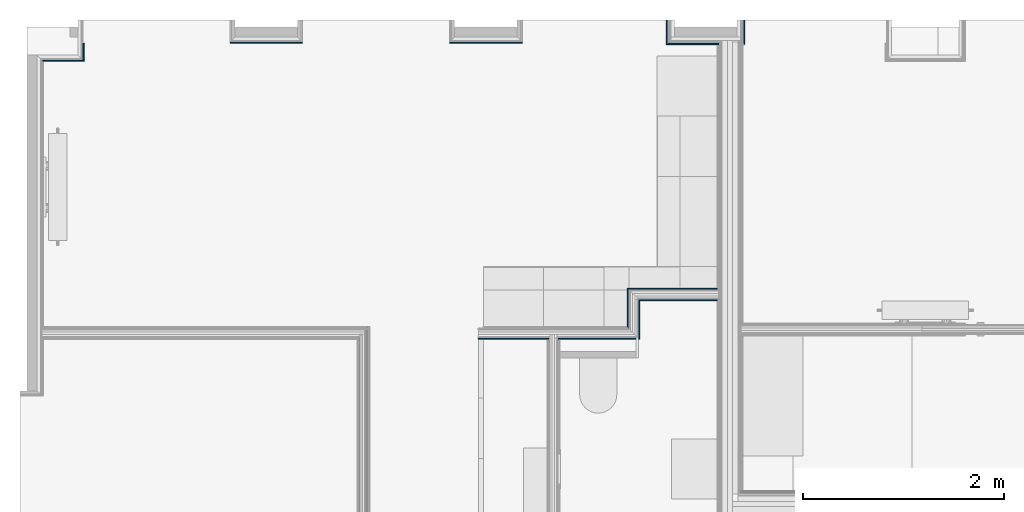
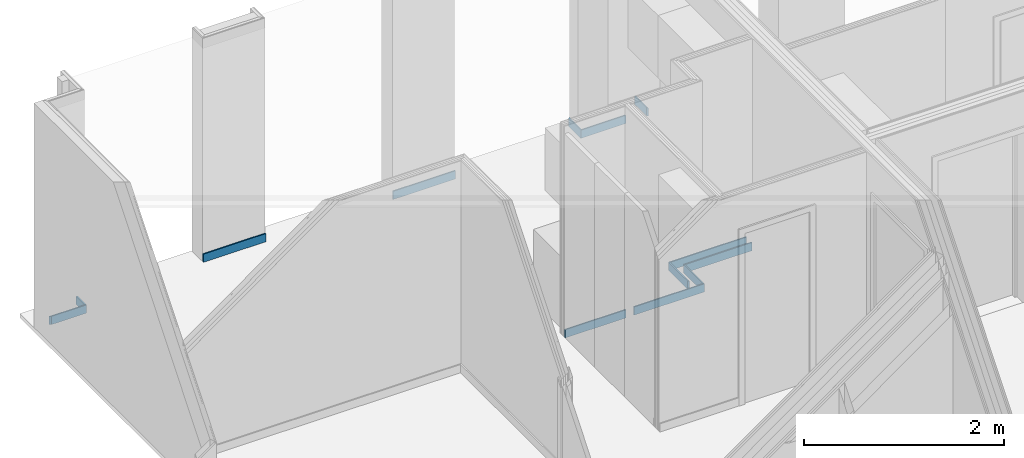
# One storey, part 33 of 85: 13 building element parts, 10 elements without a shape of their own.
"""IFC2X3 building model written with IfcOpenShell, lengths in metres."""

from ifc_helpers import new_model, entity, si_unit, converted_unit, derived_unit, money_unit, direction, frame, frame_2d, origin_with_axes, place, context, subcontext, project, spatial, polyline, rectangle, outline, extrude, material, type_object, element, aggregate, save


model = new_model("IFC2X3")

# Units and contexts
model_context = context("Model", 3, precision=1e-05, world=origin_with_axes(), true_north=direction((0.0, 1.0)))
body_context = subcontext(model_context, "Body", "Model", "MODEL_VIEW", scale=1.0)
ifc_project = project(units=[si_unit("LENGTHUNIT", "METRE"), si_unit("AREAUNIT", "SQUARE_METRE"), si_unit("VOLUMEUNIT", "CUBIC_METRE"), si_unit("ABSORBEDDOSEUNIT", "GRAY"), si_unit("AMOUNTOFSUBSTANCEUNIT", "MOLE"), si_unit("DOSEEQUIVALENTUNIT", "SIEVERT"), si_unit("ELECTRICCAPACITANCEUNIT", "FARAD"), si_unit("ELECTRICCHARGEUNIT", "COULOMB"), si_unit("ELECTRICCONDUCTANCEUNIT", "SIEMENS"), si_unit("ELECTRICCURRENTUNIT", "AMPERE"), si_unit("ELECTRICRESISTANCEUNIT", "OHM"), si_unit("ELECTRICVOLTAGEUNIT", "VOLT"), si_unit("ENERGYUNIT", "JOULE"), si_unit("FORCEUNIT", "NEWTON"), si_unit("FREQUENCYUNIT", "HERTZ"), si_unit("ILLUMINANCEUNIT", "LUX"), si_unit("INDUCTANCEUNIT", "HENRY"), si_unit("LUMINOUSFLUXUNIT", "LUMEN"), si_unit("LUMINOUSINTENSITYUNIT", "CANDELA"), si_unit("MAGNETICFLUXDENSITYUNIT", "TESLA"), si_unit("MAGNETICFLUXUNIT", "WEBER"), si_unit("MASSUNIT", "GRAM"), converted_unit("PLANEANGLEUNIT", "degree", entity("IfcReal", 0.0174532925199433), si_unit("PLANEANGLEUNIT", "RADIAN"), dimensions=[0, 0, 0, 0, 0, 0, 0]), si_unit("POWERUNIT", "WATT"), si_unit("PRESSUREUNIT", "PASCAL"), si_unit("RADIOACTIVITYUNIT", "BECQUEREL"), si_unit("SOLIDANGLEUNIT", "STERADIAN"), si_unit("THERMODYNAMICTEMPERATUREUNIT", "KELVIN"), si_unit("TIMEUNIT", "SECOND"), derived_unit("ACCELERATIONUNIT", [(si_unit("LENGTHUNIT", "METRE"), 1), (si_unit("TIMEUNIT", "SECOND"), -2)]), derived_unit("ANGULARVELOCITYUNIT", [(converted_unit("PLANEANGLEUNIT", "degree", entity("IfcReal", 0.0174532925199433), si_unit("PLANEANGLEUNIT", "RADIAN"), dimensions=[0, 0, 0, 0, 0, 0, 0]), 1), (si_unit("TIMEUNIT", "SECOND"), -1)]), derived_unit("CURVATUREUNIT", [(converted_unit("PLANEANGLEUNIT", "degree", entity("IfcReal", 0.0174532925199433), si_unit("PLANEANGLEUNIT", "RADIAN"), dimensions=[0, 0, 0, 0, 0, 0, 0]), 1), (si_unit("LENGTHUNIT", "METRE"), -1)]), derived_unit("DYNAMICVISCOSITYUNIT", [(si_unit("PRESSUREUNIT", "PASCAL"), 1), (si_unit("TIMEUNIT", "SECOND"), 1)]), derived_unit("HEATFLUXDENSITYUNIT", [(si_unit("POWERUNIT", "WATT"), 1), (si_unit("LENGTHUNIT", "METRE"), -2)]), derived_unit("HEATINGVALUEUNIT", [(si_unit("ENERGYUNIT", "JOULE"), 1), (si_unit("MASSUNIT", "GRAM"), -1)]), derived_unit("INTEGERCOUNTRATEUNIT", [(si_unit("TIMEUNIT", "SECOND"), -1)]), derived_unit("IONCONCENTRATIONUNIT", [(si_unit("MASSUNIT", "GRAM"), 1), (si_unit("VOLUMEUNIT", "CUBIC_METRE"), -1)]), derived_unit("ISOTHERMALMOISTURECAPACITYUNIT", [(si_unit("VOLUMEUNIT", "CUBIC_METRE"), 1), (si_unit("MASSUNIT", "GRAM"), -1)]), derived_unit("KINEMATICVISCOSITYUNIT", [(si_unit("AREAUNIT", "SQUARE_METRE"), 1), (si_unit("TIMEUNIT", "SECOND"), -1)]), derived_unit("LINEARFORCEUNIT", [(si_unit("FORCEUNIT", "NEWTON"), 1), (si_unit("LENGTHUNIT", "METRE"), -1)]), derived_unit("LINEARMOMENTUNIT", [(si_unit("FORCEUNIT", "NEWTON"), 1), (si_unit("LENGTHUNIT", "METRE"), -1)]), derived_unit("LINEARSTIFFNESSUNIT", [(si_unit("FORCEUNIT", "NEWTON"), 1), (si_unit("LENGTHUNIT", "METRE"), -1)]), derived_unit("LINEARVELOCITYUNIT", [(si_unit("LENGTHUNIT", "METRE"), 1), (si_unit("TIMEUNIT", "SECOND"), -1)]), derived_unit("LUMINOUSINTENSITYDISTRIBUTIONUNIT", [(si_unit("LUMINOUSINTENSITYUNIT", "CANDELA"), 1), (si_unit("LUMINOUSFLUXUNIT", "LUMEN"), -1)]), derived_unit("MASSDENSITYUNIT", [(si_unit("MASSUNIT", "GRAM"), 1), (si_unit("VOLUMEUNIT", "CUBIC_METRE"), -1)]), derived_unit("MASSFLOWRATEUNIT", [(si_unit("MASSUNIT", "GRAM"), 1), (si_unit("TIMEUNIT", "SECOND"), -1)]), derived_unit("MASSPERLENGTHUNIT", [(si_unit("MASSUNIT", "GRAM"), 1), (si_unit("LENGTHUNIT", "METRE"), -1)]), derived_unit("MODULUSOFELASTICITYUNIT", [(si_unit("FORCEUNIT", "NEWTON"), 1), (si_unit("AREAUNIT", "SQUARE_METRE"), -1)]), derived_unit("MODULUSOFLINEARSUBGRADEREACTIONUNIT", [(si_unit("FORCEUNIT", "NEWTON"), 1), (si_unit("LENGTHUNIT", "METRE"), -2)]), derived_unit("MODULUSOFROTATIONALSUBGRADEREACTIONUNIT", [(si_unit("FORCEUNIT", "NEWTON"), 1), (si_unit("LENGTHUNIT", "METRE"), 1)]), derived_unit("MODULUSOFSUBGRADEREACTIONUNIT", [(si_unit("FORCEUNIT", "NEWTON"), 1), (si_unit("VOLUMEUNIT", "CUBIC_METRE"), -1)]), derived_unit("MOISTUREDIFFUSIVITYUNIT", [(si_unit("VOLUMEUNIT", "CUBIC_METRE"), 1), (si_unit("TIMEUNIT", "SECOND"), -1)]), derived_unit("MOLECULARWEIGHTUNIT", [(si_unit("MASSUNIT", "GRAM"), 1), (si_unit("AMOUNTOFSUBSTANCEUNIT", "MOLE"), -1)]), derived_unit("PLANARFORCEUNIT", [(si_unit("FORCEUNIT", "NEWTON"), 1), (si_unit("LENGTHUNIT", "METRE"), -2)]), derived_unit("ROTATIONALFREQUENCYUNIT", [(si_unit("TIMEUNIT", "SECOND"), -1)]), derived_unit("ROTATIONALMASSUNIT", [(si_unit("MASSUNIT", "GRAM"), 1), (si_unit("LENGTHUNIT", "METRE"), 2)]), derived_unit("ROTATIONALSTIFFNESSUNIT", [(si_unit("FORCEUNIT", "NEWTON"), 1), (si_unit("LENGTHUNIT", "METRE"), 1), (converted_unit("PLANEANGLEUNIT", "degree", entity("IfcReal", 0.0174532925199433), si_unit("PLANEANGLEUNIT", "RADIAN"), dimensions=[0, 0, 0, 0, 0, 0, 0]), -1)]), derived_unit("SECTIONAREAINTEGRALUNIT", [(si_unit("LENGTHUNIT", "METRE"), 5)]), derived_unit("SECTIONMODULUSUNIT", [(si_unit("LENGTHUNIT", "METRE"), 3)]), derived_unit("SHEARMODULUSUNIT", [(si_unit("FORCEUNIT", "NEWTON"), 1), (si_unit("AREAUNIT", "SQUARE_METRE"), -1)]), derived_unit("SOUNDPOWERUNIT", [(si_unit("ENERGYUNIT", "JOULE"), 1), (si_unit("TIMEUNIT", "SECOND"), -1)]), derived_unit("SPECIFICHEATCAPACITYUNIT", [(si_unit("FORCEUNIT", "NEWTON"), 1), (si_unit("MASSUNIT", "GRAM"), -1), (si_unit("THERMODYNAMICTEMPERATUREUNIT", "KELVIN"), -1)]), derived_unit("TEMPERATUREGRADIENTUNIT", [(si_unit("THERMODYNAMICTEMPERATUREUNIT", "KELVIN"), 1), (si_unit("LENGTHUNIT", "METRE"), -1)]), derived_unit("THERMALADMITTANCEUNIT", [(si_unit("POWERUNIT", "WATT"), 1), (si_unit("AREAUNIT", "SQUARE_METRE"), -1), (si_unit("THERMODYNAMICTEMPERATUREUNIT", "KELVIN"), -1)]), derived_unit("THERMALCONDUCTANCEUNIT", [(si_unit("POWERUNIT", "WATT"), 1), (si_unit("LENGTHUNIT", "METRE"), -1), (si_unit("THERMODYNAMICTEMPERATUREUNIT", "KELVIN"), -1)]), derived_unit("THERMALEXPANSIONCOEFFICIENTUNIT", [(si_unit("THERMODYNAMICTEMPERATUREUNIT", "KELVIN"), -1)]), derived_unit("THERMALRESISTANCEUNIT", [(si_unit("AREAUNIT", "SQUARE_METRE"), 1), (si_unit("POWERUNIT", "WATT"), -1)]), derived_unit("THERMALTRANSMITTANCEUNIT", [(si_unit("POWERUNIT", "WATT"), 1), (si_unit("AREAUNIT", "SQUARE_METRE"), -1), (si_unit("THERMODYNAMICTEMPERATUREUNIT", "KELVIN"), -1)]), derived_unit("TORQUEUNIT", [(si_unit("FORCEUNIT", "NEWTON"), 1), (si_unit("LENGTHUNIT", "METRE"), 1)]), derived_unit("VAPORPERMEABILITYUNIT", [(si_unit("MASSUNIT", "GRAM"), 1), (si_unit("TIMEUNIT", "SECOND"), -1)]), derived_unit("VOLUMETRICFLOWRATEUNIT", [(si_unit("VOLUMEUNIT", "CUBIC_METRE"), 1), (si_unit("TIMEUNIT", "SECOND"), -1)]), derived_unit("WARPINGCONSTANTUNIT", [(si_unit("LENGTHUNIT", "METRE"), 6)]), derived_unit("WARPINGMOMENTUNIT", [(si_unit("FORCEUNIT", "NEWTON"), 1), (si_unit("LENGTHUNIT", "METRE"), 2)]), money_unit("GBP")], contexts=[model_context])

# Site, building, storey
site_placement = place(None, origin_with_axes())
site = spatial("IfcSite", under=ifc_project, at=site_placement, Name="Site", CompositionType="ELEMENT")
building_placement = place(site_placement, origin_with_axes())
building = spatial("IfcBuilding", under=site, at=building_placement, Name="Building01", CompositionType="ELEMENT")
storey_placement = place(building_placement, frame((0.0, 0.0, 12.13), z_axis=(0.0, 0.0, 1.0), x_axis=(1.0, 0.0, 0.0)))
storey = spatial("IfcBuildingStorey", under=building, at=storey_placement, Name="3F", CompositionType="ELEMENT", Elevation=12.13)

# Wall, building element part
wall_type_1 = type_object("IfcWallType", Name="SHE_A-Walls_Type06d_ExternalWallInsulation_48mm", PredefinedType="NOTDEFINED")
wall_1_placement = place(storey_placement, frame((0.677, 14.8, 0.0), z_axis=(0.0, 0.0, 1.0), x_axis=(0.0, -1.0, 0.0)))
wall_1 = element("IfcWall", 1, at=wall_1_placement, inside=storey, type_object=wall_type_1, Name="6D", ObjectType="SHE_A-Walls_Type06d_ExternalWallInsulation_48mm")
ifc_material = material(Name="A_BSUK_Walls_Timber")
building_element_part_1_placement = place(wall_1_placement, origin_with_axes())
building_element_part_1 = element("IfcBuildingElementPart", 2, at=building_element_part_1_placement, material=ifc_material, Name="3", context=body_context, shape_type="SweptSolid", body=[
    extrude(outline(polyline([(0.413, 0.063), (0.233, 0.063), (0.233, 0.048), (0.398, 0.048), (0.413, 0.063)])), frame((0.0, 0.0, 0.015), z_axis=(0.0, 0.0, 1.0), x_axis=(1.0, 0.0, 0.0)), (0.0, 0.0, 1.0), 0.1),
])
aggregate(wall_1, [building_element_part_1])

wall_2_placement = place(storey_placement, frame((0.677, 14.45, 0.0), z_axis=(0.0, 0.0, 1.0), x_axis=(-1.0, 0.0, 0.0)))
wall_2 = element("IfcWall", 3, at=wall_2_placement, inside=storey, type_object=wall_type_1, Name="6D", ObjectType="SHE_A-Walls_Type06d_ExternalWallInsulation_48mm")
building_element_part_2_placement = place(wall_2_placement, origin_with_axes())
building_element_part_2 = element("IfcBuildingElementPart", 4, at=building_element_part_2_placement, material=ifc_material, Name="3", context=body_context, shape_type="SweptSolid", body=[
    extrude(outline(polyline([(0.344, 0.063), (-0.063, 0.063), (-0.048, 0.048), (0.359, 0.048), (0.344, 0.063)])), frame((0.0, 0.0, 0.015), z_axis=(0.0, 0.0, 1.0), x_axis=(1.0, 0.0, 0.0)), (0.0, 0.0, 1.0), 0.1),
])
aggregate(wall_2, [building_element_part_2])

wall_3_placement = place(storey_placement, frame((2.867, 14.63, 0.0), z_axis=(0.0, 0.0, 1.0), x_axis=(-1.0, 0.0, 0.0)))
wall_3 = element("IfcWall", 5, at=wall_3_placement, inside=storey, type_object=wall_type_1, Name="6D", ObjectType="SHE_A-Walls_Type06d_ExternalWallInsulation_48mm")
building_element_part_3_placement = place(wall_3_placement, origin_with_axes())
building_element_part_3 = element("IfcBuildingElementPart", 6, at=building_element_part_3_placement, material=ifc_material, Name="3", context=body_context, shape_type="SweptSolid", body=[
    extrude(rectangle(XDim=0.72, YDim=0.015, at=frame_2d((0.312, 0.0555), x_axis=(1.0, 0.0))), frame((0.0, 0.0, 0.015), z_axis=(0.0, 0.0, 1.0), x_axis=(1.0, 0.0, 0.0)), (0.0, 0.0, 1.0), 0.1),
])
aggregate(wall_3, [building_element_part_3])

wall_4_placement = place(storey_placement, frame((5.057, 14.63, 0.0), z_axis=(0.0, 0.0, 1.0), x_axis=(-1.0, 0.0, 0.0)))
wall_4 = element("IfcWall", 7, at=wall_4_placement, inside=storey, type_object=wall_type_1, Name="6D", ObjectType="SHE_A-Walls_Type06d_ExternalWallInsulation_48mm")
building_element_part_4_placement = place(wall_4_placement, origin_with_axes())
building_element_part_4 = element("IfcBuildingElementPart", 8, at=building_element_part_4_placement, material=ifc_material, Name="3", context=body_context, shape_type="SweptSolid", body=[
    extrude(rectangle(XDim=0.72, YDim=0.015, at=frame_2d((0.312, 0.0555), x_axis=(1.0, 0.0))), frame((0.0, 0.0, 0.015), z_axis=(0.0, 0.0, 1.0), x_axis=(1.0, 0.0, 0.0)), (0.0, 0.0, 1.0), 0.1),
])
aggregate(wall_4, [building_element_part_4])

# Wall, building element parts
wall_type_2 = type_object("IfcWallType", Name="SHE_A-Walls_Type05a_Partition_95mm_tall", PredefinedType="NOTDEFINED")
wall_5_placement = place(storey_placement, frame((6.229669, 11.66567, 0.0), z_axis=(0.0, 0.0, 1.0), x_axis=(0.0, 1.0, 0.0)))
wall_5 = element("IfcWall", 9, at=wall_5_placement, inside=storey, type_object=wall_type_2, Name="5A", ObjectType="SHE_A-Walls_Type05a_Partition_95mm_tall")
placement_1 = place(wall_5_placement, origin_with_axes())
building_element_part_5 = element("IfcBuildingElementPart", 10, at=placement_1, material=ifc_material, Name="1", context=body_context, shape_type="SweptSolid", body=[
    extrude(outline(polyline([(0.35, -0.035), (-0.035, -0.035), (-0.05, -0.05), (0.335, -0.05), (0.35, -0.035)])), frame((0.0, 0.0, 0.015), z_axis=(0.0, 0.0, 1.0), x_axis=(1.0, 0.0, 0.0)), (0.0, 0.0, 1.0), 0.1),
])
building_element_part_6 = element("IfcBuildingElementPart", 11, at=placement_1, material=ifc_material, Name="7", context=body_context, shape_type="SweptSolid", body=[
    extrude(outline(polyline([(0.46, 0.075), (0.075, 0.075), (0.06, 0.06), (0.445, 0.06), (0.46, 0.075)])), frame((0.0, 0.0, 0.015), z_axis=(0.0, 0.0, 1.0), x_axis=(1.0, 0.0, 0.0)), (0.0, 0.0, 1.0), 0.1),
])
aggregate(wall_5, [building_element_part_5, building_element_part_6])

wall_6_placement = place(storey_placement, frame((6.229669, 12.05067, 0.0), z_axis=(0.0, 0.0, 1.0), x_axis=(1.0, 0.0, 0.0)))
wall_6 = element("IfcWall", 12, at=wall_6_placement, inside=storey, type_object=wall_type_2, Name="5A", ObjectType="SHE_A-Walls_Type05a_Partition_95mm_tall")
placement_2 = place(wall_6_placement, origin_with_axes())
building_element_part_7 = element("IfcBuildingElementPart", 13, at=placement_2, material=ifc_material, Name="1", context=body_context, shape_type="SweptSolid", body=[
    extrude(outline(polyline([(0.82, -0.035), (0.035, -0.035), (0.05, -0.05), (0.82, -0.05), (0.82, -0.035)])), frame((0.0, 0.0, 0.015), z_axis=(0.0, 0.0, 1.0), x_axis=(1.0, 0.0, 0.0)), (0.0, 0.0, 1.0), 0.1),
])
building_element_part_8 = element("IfcBuildingElementPart", 14, at=placement_2, material=ifc_material, Name="7", context=body_context, shape_type="SweptSolid", body=[
    extrude(outline(polyline([(0.82, 0.075), (-0.075, 0.075), (-0.06, 0.06), (0.82, 0.06), (0.82, 0.075)])), frame((0.0, 0.0, 0.015), z_axis=(0.0, 0.0, 1.0), x_axis=(1.0, 0.0, 0.0)), (0.0, 0.0, 1.0), 0.1),
])
aggregate(wall_6, [building_element_part_7, building_element_part_8])

wall_7_placement = place(storey_placement, frame((4.669669, 11.66567, 0.0), z_axis=(0.0, 0.0, 1.0), x_axis=(1.0, 0.0, 0.0)))
wall_7 = element("IfcWall", 15, at=wall_7_placement, inside=storey, type_object=wall_type_2, Name="5A", ObjectType="SHE_A-Walls_Type05a_Partition_95mm_tall")
placement_3 = place(wall_7_placement, origin_with_axes())
building_element_part_9 = element("IfcBuildingElementPart", 16, at=placement_3, material=ifc_material, Name="1", context=body_context, shape_type="SweptSolid", body=[
    extrude(rectangle(XDim=0.7, YDim=0.015, at=frame_2d((0.35, -0.0425), x_axis=(-1.0, 0.0))), frame((0.0, 0.0, 0.015), z_axis=(0.0, 0.0, 1.0), x_axis=(1.0, 0.0, 0.0)), (0.0, 0.0, 1.0), 0.1),
])
building_element_part_10 = element("IfcBuildingElementPart", 17, at=placement_3, material=ifc_material, Name="2", context=body_context, shape_type="SweptSolid", body=[
    extrude(outline(polyline([(1.595, -0.035), (0.795, -0.035), (0.795, -0.05), (1.61, -0.05), (1.595, -0.035)])), frame((0.0, 0.0, 0.015), z_axis=(0.0, 0.0, 1.0), x_axis=(1.0, 0.0, 0.0)), (0.0, 0.0, 1.0), 0.1),
])
aggregate(wall_7, [building_element_part_9, building_element_part_10])

# Wall, building element part
wall_type_3 = type_object("IfcWallType", Name="SHE_A-Walls_Type06f_ExternalWallInsulation_48+15mm", PredefinedType="NOTDEFINED")
wall_8_placement = place(storey_placement, frame((6.622876, 14.8, 0.0), z_axis=(0.0, 0.0, 1.0), x_axis=(0.0, -1.0, 0.0)))
wall_8 = element("IfcWall", 18, at=wall_8_placement, inside=storey, type_object=wall_type_3, Name="6F", ObjectType="SHE_A-Walls_Type06f_ExternalWallInsulation_48+15mm")
building_element_part_11_placement = place(wall_8_placement, origin_with_axes())
building_element_part_11 = element("IfcBuildingElementPart", 19, at=building_element_part_11_placement, material=ifc_material, Name="1", context=body_context, shape_type="SweptSolid", body=[
    extrude(outline(polyline([(0.233, -0.063), (0.0, -0.063), (0.0, -0.078), (0.248, -0.078), (0.233, -0.063)])), frame((0.0, 0.0, 0.015), z_axis=(0.0, 0.0, 1.0), x_axis=(1.0, 0.0, 0.0)), (0.0, 0.0, 1.0), 0.1),
])
aggregate(wall_8, [building_element_part_11])

wall_9_placement = place(storey_placement, frame((7.247, 14.8, 0.0), z_axis=(0.0, 0.0, 1.0), x_axis=(0.0, -1.0, 0.0)))
wall_9 = element("IfcWall", 20, at=wall_9_placement, inside=storey, type_object=wall_type_3, Name="6F", ObjectType="SHE_A-Walls_Type06f_ExternalWallInsulation_48+15mm")
building_element_part_12_placement = place(wall_9_placement, origin_with_axes())
building_element_part_12 = element("IfcBuildingElementPart", 21, at=building_element_part_12_placement, material=ifc_material, Name="4", context=body_context, shape_type="SweptSolid", body=[
    extrude(outline(polyline([(0.248, 0.078), (0.0, 0.078), (0.0, 0.063), (0.233, 0.063), (0.248, 0.078)])), frame((0.0, 0.0, 0.015), z_axis=(0.0, 0.0, 1.0), x_axis=(1.0, 0.0, 0.0)), (0.0, 0.0, 1.0), 0.1),
])
aggregate(wall_9, [building_element_part_12])

wall_10_placement = place(storey_placement, frame((7.283, 14.63, 0.0), z_axis=(0.0, 0.0, 1.0), x_axis=(-1.0, 0.0, 0.0)))
wall_10 = element("IfcWall", 22, at=wall_10_placement, inside=storey, type_object=wall_type_3, Name="6F", ObjectType="SHE_A-Walls_Type06f_ExternalWallInsulation_48+15mm")
building_element_part_13_placement = place(wall_10_placement, origin_with_axes())
building_element_part_13 = element("IfcBuildingElementPart", 23, at=building_element_part_13_placement, material=ifc_material, Name="7", context=body_context, shape_type="SweptSolid", body=[
    extrude(outline(polyline([(0.738124, 0.078), (0.218331, 0.078), (0.218331, 0.063), (0.723124, 0.063), (0.738124, 0.078)])), frame((0.0, 0.0, 0.015), z_axis=(0.0, 0.0, 1.0), x_axis=(1.0, 0.0, 0.0)), (0.0, 0.0, 1.0), 0.1),
])
aggregate(wall_10, [building_element_part_13])

save(model, "model.ifc")
